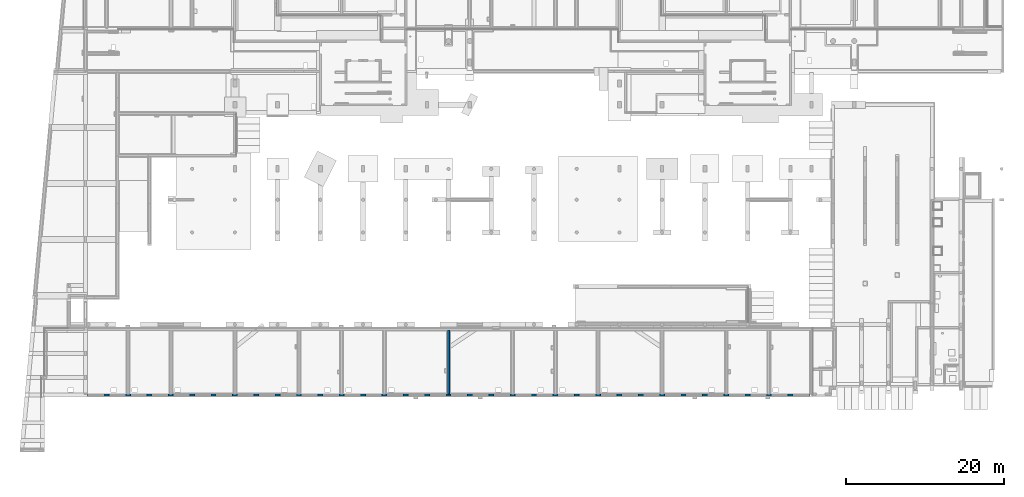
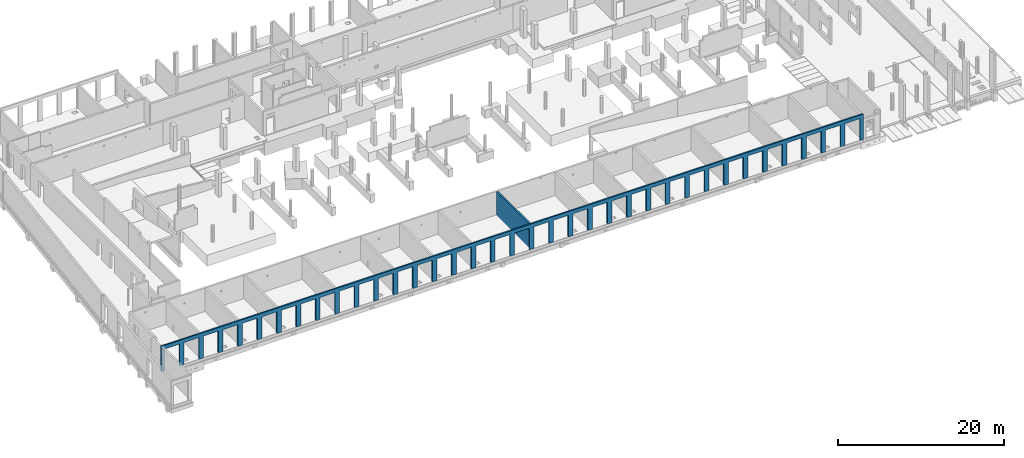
# One storey, part 39 of 60: 2 walls, 61 openings.
"""IFC2X3 building model written with IfcOpenShell, lengths in millimetres."""

from ifc_helpers import new_model, entity, si_unit, converted_unit, derived_unit, direction, frame, frame_2d, origin, origin_2d_with_axis, place, context, subcontext, project, spatial, rectangle, extrude, material, layer, layer_set, layer_usage, type_object, element, save


model = new_model("IFC2X3")

# Units and contexts
model_context = context("Model", 3, precision=0.01, world=origin(), true_north=direction((6.12303176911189e-17, 1.0)))
body_context = subcontext(model_context, "Body", "Model", "MODEL_VIEW")
ifc_project = project(units=[si_unit("LENGTHUNIT", "METRE", prefix="MILLI"), si_unit("AREAUNIT", "SQUARE_METRE"), si_unit("VOLUMEUNIT", "CUBIC_METRE"), converted_unit("PLANEANGLEUNIT", "DEGREE", entity("IfcRatioMeasure", 0.0174532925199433), si_unit("PLANEANGLEUNIT", "RADIAN"), dimensions=[0, 0, 0, 0, 0, 0, 0]), si_unit("MASSUNIT", "GRAM", prefix="KILO"), derived_unit("MASSDENSITYUNIT", [(si_unit("MASSUNIT", "GRAM", prefix="KILO"), 1), (si_unit("LENGTHUNIT", "METRE"), -3)]), si_unit("TIMEUNIT", "SECOND"), si_unit("FREQUENCYUNIT", "HERTZ"), si_unit("THERMODYNAMICTEMPERATUREUNIT", "DEGREE_CELSIUS"), derived_unit("THERMALTRANSMITTANCEUNIT", [(si_unit("MASSUNIT", "GRAM", prefix="KILO"), 1), (si_unit("THERMODYNAMICTEMPERATUREUNIT", "KELVIN"), -1), (si_unit("TIMEUNIT", "SECOND"), -3)]), derived_unit("VOLUMETRICFLOWRATEUNIT", [(si_unit("LENGTHUNIT", "METRE"), 3), (si_unit("TIMEUNIT", "SECOND"), -1)]), si_unit("ELECTRICCURRENTUNIT", "AMPERE"), si_unit("ELECTRICVOLTAGEUNIT", "VOLT"), si_unit("POWERUNIT", "WATT"), si_unit("FORCEUNIT", "NEWTON", prefix="KILO"), si_unit("ILLUMINANCEUNIT", "LUX"), si_unit("LUMINOUSFLUXUNIT", "LUMEN"), si_unit("LUMINOUSINTENSITYUNIT", "CANDELA"), derived_unit("USERDEFINED", [(si_unit("MASSUNIT", "GRAM", prefix="KILO"), -1), (si_unit("LENGTHUNIT", "METRE"), -2), (si_unit("TIMEUNIT", "SECOND"), 3), (si_unit("LUMINOUSFLUXUNIT", "LUMEN"), 1)]), derived_unit("LINEARVELOCITYUNIT", [(si_unit("LENGTHUNIT", "METRE"), 1), (si_unit("TIMEUNIT", "SECOND"), -1)]), si_unit("PRESSUREUNIT", "PASCAL"), derived_unit("USERDEFINED", [(si_unit("LENGTHUNIT", "METRE"), -2), (si_unit("MASSUNIT", "GRAM", prefix="KILO"), 1), (si_unit("TIMEUNIT", "SECOND"), -2)])], contexts=[model_context])

# Site, building, storey
site_placement = place(None, origin())
site = spatial("IfcSite", under=ifc_project, at=site_placement, Name="Default", CompositionType="ELEMENT")
building_placement = place(site_placement, origin())
building = spatial("IfcBuilding", under=site, at=building_placement, Name="niet gebruiken", CompositionType="ELEMENT")
storey_placement = place(building_placement, origin())
storey = spatial("IfcBuildingStorey", under=building, at=storey_placement, Name="00 begane grond", CompositionType="ELEMENT", Elevation=0.0)

# Wall
ifc_material_1 = material(Name="NLRS_f2_beton ihwg")
ifc_layer_1 = layer(ifc_material_1, 250.0)
ifc_layer_set_1 = layer_set([ifc_layer_1], Name="Basic Wall:NLRS_22.21_WA_beton ihwg d=250_gen")
ifc_layer_usage_1 = layer_usage(ifc_layer_set_1, "AXIS2", "NEGATIVE", 125.0)
wall_type_1 = type_object("IfcWallType", Name="Basic Wall:NLRS_22.21_WA_beton ihwg d=250_gen", PredefinedType="STANDARD", material=ifc_layer_set_1)
wall_1_placement = place(storey_placement, frame((54000.0, 8496.0, -160.0), z_axis=(0.0, 0.0, 1.0), x_axis=(0.0, -1.0, 0.0)))
element("IfcWallStandardCase", 1, at=wall_1_placement, inside=storey, type_object=wall_type_1, material=ifc_layer_usage_1, Name="Basic Wall:NLRS_22.21_WA_beton ihwg d=250_gen", ObjectType="Basic Wall:NLRS_22.21_WA_beton ihwg d=250_gen", context=body_context, shape_type="SweptSolid", body=[
    extrude(rectangle(XDim=8075.99999999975, YDim=249.999999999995, at=frame_2d((4037.99999999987, 0.0), x_axis=(-1.0, 0.0))), origin(), (0.0, 0.0, 1.0), 3510.00000000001),
])

# Wall, openings
ifc_material_2 = material(Name="NLRS_f2_beton prefab")
ifc_layer_2 = layer(ifc_material_2, 200.0)
ifc_layer_set_2 = layer_set([ifc_layer_2], Name="Basic Wall:NLRS_21.21_WA_beton prefab d=200_gen")
ifc_layer_usage_2 = layer_usage(ifc_layer_set_2, "AXIS2", "NEGATIVE", 100.0)
wall_type_2 = type_object("IfcWallType", Name="Basic Wall:NLRS_21.21_WA_beton prefab d=200_gen", PredefinedType="STANDARD", material=ifc_layer_set_2)
wall_2_placement = place(storey_placement, frame((2550.0, 300.0, -130.0)))
wall_2 = element("IfcWallStandardCase", 2, at=wall_2_placement, inside=storey, type_object=wall_type_2, material=ifc_layer_usage_2, Name="Basic Wall:NLRS_21.21_WA_beton prefab d=200_gen", ObjectType="Basic Wall:NLRS_21.21_WA_beton prefab d=200_gen", context=body_context, shape_type="SweptSolid", body=[
    extrude(rectangle(XDim=97494.9999999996, YDim=200.0, at=frame_2d((48747.4999999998, -7.105427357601e-15), x_axis=(-1.0, 0.0))), origin(), (0.0, 0.0, 1.0), 3730.0),
])
opening_1_placement = place(wall_2_placement, origin())
element("IfcOpeningElement", 3, at=opening_1_placement, cuts=wall_2, Name="Basic Wall:NLRS_21.21_WA_beton prefab d=200_gen", ObjectType="Opening", context=body_context, shape_type="SweptSolid", body=[
    extrude(rectangle(XDim=3230.0, YDim=2080.0, at=frame_2d((0.0, 8.64019966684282e-12), x_axis=(1.0, 0.0))), frame((96000.0, -1424.0, 1585.0), z_axis=(0.0, 1.0, 0.0), x_axis=(0.0, 0.0, 1.0)), (0.0, 0.0, 1.0), 3048.0),
])
opening_2_placement = place(wall_2_placement, origin())
element("IfcOpeningElement", 4, at=opening_2_placement, cuts=wall_2, Name="Basic Wall:NLRS_21.21_WA_beton prefab d=200_gen", ObjectType="Opening", context=body_context, shape_type="SweptSolid", body=[
    extrude(rectangle(XDim=3230.0, YDim=2080.0, at=frame_2d((0.0, -8.64019966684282e-12), x_axis=(1.0, 0.0))), frame((93300.0, -1424.0, 1585.0), z_axis=(0.0, 1.0, 0.0), x_axis=(0.0, 0.0, 1.0)), (0.0, 0.0, 1.0), 3048.0),
])
opening_3_placement = place(wall_2_placement, origin())
element("IfcOpeningElement", 5, at=opening_3_placement, cuts=wall_2, Name="Basic Wall:NLRS_21.21_WA_beton prefab d=200_gen", ObjectType="Opening", context=body_context, shape_type="SweptSolid", body=[
    extrude(rectangle(XDim=3230.0, YDim=2080.0, at=frame_2d((0.0, -8.64019966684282e-12), x_axis=(1.0, 0.0))), frame((90600.0, -1424.0, 1585.0), z_axis=(0.0, 1.0, 0.0), x_axis=(0.0, 0.0, 1.0)), (0.0, 0.0, 1.0), 3048.0),
])
opening_4_placement = place(wall_2_placement, origin())
element("IfcOpeningElement", 6, at=opening_4_placement, cuts=wall_2, Name="Basic Wall:NLRS_21.21_WA_beton prefab d=200_gen", ObjectType="Opening", context=body_context, shape_type="SweptSolid", body=[
    extrude(rectangle(XDim=3230.0, YDim=2080.0, at=frame_2d((0.0, 8.64019966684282e-12), x_axis=(1.0, 0.0))), frame((87900.0, -1424.0, 1585.0), z_axis=(0.0, 1.0, 0.0), x_axis=(0.0, 0.0, 1.0)), (0.0, 0.0, 1.0), 3048.0),
])
opening_5_placement = place(wall_2_placement, origin())
element("IfcOpeningElement", 7, at=opening_5_placement, cuts=wall_2, Name="Basic Wall:NLRS_21.21_WA_beton prefab d=200_gen", ObjectType="Opening", context=body_context, shape_type="SweptSolid", body=[
    extrude(rectangle(XDim=3230.0, YDim=2080.0, at=frame_2d((0.0, 8.64019966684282e-12), x_axis=(1.0, 0.0))), frame((85200.0, -1424.0, 1585.0), z_axis=(0.0, 1.0, 0.0), x_axis=(0.0, 0.0, 1.0)), (0.0, 0.0, 1.0), 3048.0),
])
opening_6_placement = place(wall_2_placement, origin())
element("IfcOpeningElement", 8, at=opening_6_placement, cuts=wall_2, Name="Basic Wall:NLRS_21.21_WA_beton prefab d=200_gen", ObjectType="Opening", context=body_context, shape_type="SweptSolid", body=[
    extrude(rectangle(XDim=3230.0, YDim=2080.0, at=frame_2d((0.0, 8.64019966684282e-12), x_axis=(1.0, 0.0))), frame((82500.0, -1424.0, 1585.0), z_axis=(0.0, 1.0, 0.0), x_axis=(0.0, 0.0, 1.0)), (0.0, 0.0, 1.0), 3048.0),
])
opening_7_placement = place(wall_2_placement, origin())
element("IfcOpeningElement", 9, at=opening_7_placement, cuts=wall_2, Name="Basic Wall:NLRS_21.21_WA_beton prefab d=200_gen", ObjectType="Opening", context=body_context, shape_type="SweptSolid", body=[
    extrude(rectangle(XDim=3230.0, YDim=2080.0, at=frame_2d((0.0, 8.64019966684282e-12), x_axis=(1.0, 0.0))), frame((79800.0, -1424.0, 1585.0), z_axis=(0.0, 1.0, 0.0), x_axis=(0.0, 0.0, 1.0)), (0.0, 0.0, 1.0), 3048.0),
])
opening_8_placement = place(wall_2_placement, origin())
element("IfcOpeningElement", 10, at=opening_8_placement, cuts=wall_2, Name="Basic Wall:NLRS_21.21_WA_beton prefab d=200_gen", ObjectType="Opening", context=body_context, shape_type="SweptSolid", body=[
    extrude(rectangle(XDim=3230.0, YDim=2080.0, at=frame_2d((0.0, 8.64019966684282e-12), x_axis=(1.0, 0.0))), frame((77100.0, -1424.0, 1585.0), z_axis=(0.0, 1.0, 0.0), x_axis=(0.0, 0.0, 1.0)), (0.0, 0.0, 1.0), 3048.0),
])
opening_9_placement = place(wall_2_placement, origin())
element("IfcOpeningElement", 11, at=opening_9_placement, cuts=wall_2, Name="Basic Wall:NLRS_21.21_WA_beton prefab d=200_gen", ObjectType="Opening", context=body_context, shape_type="SweptSolid", body=[
    extrude(rectangle(XDim=3230.0, YDim=2080.0, at=frame_2d((0.0, 4.32009983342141e-12), x_axis=(1.0, 0.0))), frame((74400.0, -1424.0, 1585.0), z_axis=(0.0, 1.0, 0.0), x_axis=(0.0, 0.0, 1.0)), (0.0, 0.0, 1.0), 3048.0),
])
opening_10_placement = place(wall_2_placement, origin())
element("IfcOpeningElement", 12, at=opening_10_placement, cuts=wall_2, Name="Basic Wall:NLRS_21.21_WA_beton prefab d=200_gen", ObjectType="Opening", context=body_context, shape_type="SweptSolid", body=[
    extrude(rectangle(XDim=3230.0, YDim=2080.0, at=frame_2d((0.0, 4.32009983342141e-12), x_axis=(1.0, 0.0))), frame((71700.0, -1424.0, 1585.0), z_axis=(0.0, 1.0, 0.0), x_axis=(0.0, 0.0, 1.0)), (0.0, 0.0, 1.0), 3048.0),
])
opening_11_placement = place(wall_2_placement, origin())
element("IfcOpeningElement", 13, at=opening_11_placement, cuts=wall_2, Name="Basic Wall:NLRS_21.21_WA_beton prefab d=200_gen", ObjectType="Opening", context=body_context, shape_type="SweptSolid", body=[
    extrude(rectangle(XDim=3230.0, YDim=2080.0, at=frame_2d((0.0, 4.32009983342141e-12), x_axis=(1.0, 0.0))), frame((66300.0, -1424.0, 1585.0), z_axis=(0.0, 1.0, 0.0), x_axis=(0.0, 0.0, 1.0)), (0.0, 0.0, 1.0), 3048.0),
])
opening_12_placement = place(wall_2_placement, origin())
element("IfcOpeningElement", 14, at=opening_12_placement, cuts=wall_2, Name="Basic Wall:NLRS_21.21_WA_beton prefab d=200_gen", ObjectType="Opening", context=body_context, shape_type="SweptSolid", body=[
    extrude(rectangle(XDim=3230.0, YDim=2080.0, at=frame_2d((0.0, 4.32009983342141e-12), x_axis=(1.0, 0.0))), frame((63600.0, -1424.0, 1585.0), z_axis=(0.0, 1.0, 0.0), x_axis=(0.0, 0.0, 1.0)), (0.0, 0.0, 1.0), 3048.0),
])
opening_13_placement = place(wall_2_placement, origin())
element("IfcOpeningElement", 15, at=opening_13_placement, cuts=wall_2, Name="Basic Wall:NLRS_21.21_WA_beton prefab d=200_gen", ObjectType="Opening", context=body_context, shape_type="SweptSolid", body=[
    extrude(rectangle(XDim=3230.0, YDim=2080.0, at=frame_2d((0.0, -4.32009983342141e-12), x_axis=(1.0, 0.0))), frame((60900.0, -1424.0, 1585.0), z_axis=(0.0, 1.0, 0.0), x_axis=(0.0, 0.0, 1.0)), (0.0, 0.0, 1.0), 3048.0),
])
opening_14_placement = place(wall_2_placement, origin())
element("IfcOpeningElement", 16, at=opening_14_placement, cuts=wall_2, Name="Basic Wall:NLRS_21.21_WA_beton prefab d=200_gen", ObjectType="Opening", context=body_context, shape_type="SweptSolid", body=[
    extrude(rectangle(XDim=3230.0, YDim=2080.0, at=frame_2d((0.0, 4.32009983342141e-12), x_axis=(1.0, 0.0))), frame((55500.0, -1424.0, 1585.0), z_axis=(0.0, 1.0, 0.0), x_axis=(0.0, 0.0, 1.0)), (0.0, 0.0, 1.0), 3048.0),
])
opening_15_placement = place(wall_2_placement, origin())
element("IfcOpeningElement", 17, at=opening_15_placement, cuts=wall_2, Name="Basic Wall:NLRS_21.21_WA_beton prefab d=200_gen", ObjectType="Opening", context=body_context, shape_type="SweptSolid", body=[
    extrude(rectangle(XDim=3230.0, YDim=2080.0, at=frame_2d((0.0, 4.32009983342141e-12), x_axis=(1.0, 0.0))), frame((52800.0, -1424.0, 1585.0), z_axis=(0.0, 1.0, 0.0), x_axis=(0.0, 0.0, 1.0)), (0.0, 0.0, 1.0), 3048.0),
])
opening_16_placement = place(wall_2_placement, origin())
element("IfcOpeningElement", 18, at=opening_16_placement, cuts=wall_2, Name="Basic Wall:NLRS_21.21_WA_beton prefab d=200_gen", ObjectType="Opening", context=body_context, shape_type="SweptSolid", body=[
    extrude(rectangle(XDim=3230.0, YDim=2080.0, at=frame_2d((0.0, -4.32009983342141e-12), x_axis=(1.0, 0.0))), frame((50100.0, -1424.0, 1585.0), z_axis=(0.0, 1.0, 0.0), x_axis=(0.0, 0.0, 1.0)), (0.0, 0.0, 1.0), 3048.0),
])
opening_17_placement = place(wall_2_placement, origin())
element("IfcOpeningElement", 19, at=opening_17_placement, cuts=wall_2, Name="Basic Wall:NLRS_21.21_WA_beton prefab d=200_gen", ObjectType="Opening", context=body_context, shape_type="SweptSolid", body=[
    extrude(rectangle(XDim=3230.0, YDim=2080.0, at=frame_2d((0.0, 4.32009983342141e-12), x_axis=(1.0, 0.0))), frame((47400.0, -1424.0, 1585.0), z_axis=(0.0, 1.0, 0.0), x_axis=(0.0, 0.0, 1.0)), (0.0, 0.0, 1.0), 3048.0),
])
opening_18_placement = place(wall_2_placement, origin())
element("IfcOpeningElement", 20, at=opening_18_placement, cuts=wall_2, Name="Basic Wall:NLRS_21.21_WA_beton prefab d=200_gen", ObjectType="Opening", context=body_context, shape_type="SweptSolid", body=[
    extrude(rectangle(XDim=3230.0, YDim=2080.0, at=frame_2d((0.0, 4.32009983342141e-12), x_axis=(1.0, 0.0))), frame((44700.0, -1424.0, 1585.0), z_axis=(0.0, 1.0, 0.0), x_axis=(0.0, 0.0, 1.0)), (0.0, 0.0, 1.0), 3048.0),
])
opening_19_placement = place(wall_2_placement, origin())
element("IfcOpeningElement", 21, at=opening_19_placement, cuts=wall_2, Name="Basic Wall:NLRS_21.21_WA_beton prefab d=200_gen", ObjectType="Opening", context=body_context, shape_type="SweptSolid", body=[
    extrude(rectangle(XDim=3230.0, YDim=2080.0, at=frame_2d((0.0, 4.32009983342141e-12), x_axis=(1.0, 0.0))), frame((42000.0, -1424.0, 1585.0), z_axis=(0.0, 1.0, 0.0), x_axis=(0.0, 0.0, 1.0)), (0.0, 0.0, 1.0), 3048.0),
])
opening_20_placement = place(wall_2_placement, origin())
element("IfcOpeningElement", 22, at=opening_20_placement, cuts=wall_2, Name="Basic Wall:NLRS_21.21_WA_beton prefab d=200_gen", ObjectType="Opening", context=body_context, shape_type="SweptSolid", body=[
    extrude(rectangle(XDim=3230.0, YDim=2080.0, at=frame_2d((0.0, -4.32009983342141e-12), x_axis=(1.0, 0.0))), frame((39300.0, -1424.0, 1585.0), z_axis=(0.0, 1.0, 0.0), x_axis=(0.0, 0.0, 1.0)), (0.0, 0.0, 1.0), 3048.0),
])
opening_21_placement = place(wall_2_placement, origin())
element("IfcOpeningElement", 23, at=opening_21_placement, cuts=wall_2, Name="Basic Wall:NLRS_21.21_WA_beton prefab d=200_gen", ObjectType="Opening", context=body_context, shape_type="SweptSolid", body=[
    extrude(rectangle(XDim=3230.0, YDim=2080.0, at=frame_2d((0.0, -2.1600499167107e-12), x_axis=(1.0, 0.0))), frame((36600.0, -1424.0, 1585.0), z_axis=(0.0, 1.0, 0.0), x_axis=(0.0, 0.0, 1.0)), (0.0, 0.0, 1.0), 3048.0),
])
opening_22_placement = place(wall_2_placement, origin())
element("IfcOpeningElement", 24, at=opening_22_placement, cuts=wall_2, Name="Basic Wall:NLRS_21.21_WA_beton prefab d=200_gen", ObjectType="Opening", context=body_context, shape_type="SweptSolid", body=[
    extrude(rectangle(XDim=3230.0, YDim=2080.0, at=frame_2d((0.0, 2.1600499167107e-12), x_axis=(1.0, 0.0))), frame((33900.0, -1424.0, 1585.0), z_axis=(0.0, 1.0, 0.0), x_axis=(0.0, 0.0, 1.0)), (0.0, 0.0, 1.0), 3048.0),
])
opening_23_placement = place(wall_2_placement, origin())
element("IfcOpeningElement", 25, at=opening_23_placement, cuts=wall_2, Name="Basic Wall:NLRS_21.21_WA_beton prefab d=200_gen", ObjectType="Opening", context=body_context, shape_type="SweptSolid", body=[
    extrude(rectangle(XDim=3230.0, YDim=2080.0, at=frame_2d((0.0, -2.1600499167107e-12), x_axis=(1.0, 0.0))), frame((31200.0, -1424.0, 1585.0), z_axis=(0.0, 1.0, 0.0), x_axis=(0.0, 0.0, 1.0)), (0.0, 0.0, 1.0), 3048.0),
])
opening_24_placement = place(wall_2_placement, origin())
element("IfcOpeningElement", 26, at=opening_24_placement, cuts=wall_2, Name="Basic Wall:NLRS_21.21_WA_beton prefab d=200_gen", ObjectType="Opening", context=body_context, shape_type="SweptSolid", body=[
    extrude(rectangle(XDim=3230.0, YDim=2080.0, at=frame_2d((0.0, -2.1600499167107e-12), x_axis=(1.0, 0.0))), frame((28500.0, -1424.0, 1585.0), z_axis=(0.0, 1.0, 0.0), x_axis=(0.0, 0.0, 1.0)), (0.0, 0.0, 1.0), 3048.0),
])
opening_25_placement = place(wall_2_placement, origin())
element("IfcOpeningElement", 27, at=opening_25_placement, cuts=wall_2, Name="Basic Wall:NLRS_21.21_WA_beton prefab d=200_gen", ObjectType="Opening", context=body_context, shape_type="SweptSolid", body=[
    extrude(rectangle(XDim=3230.0, YDim=2080.0, at=frame_2d((0.0, -2.1600499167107e-12), x_axis=(1.0, 0.0))), frame((25800.0, -1424.0, 1585.0), z_axis=(0.0, 1.0, 0.0), x_axis=(0.0, 0.0, 1.0)), (0.0, 0.0, 1.0), 3048.0),
])
opening_26_placement = place(wall_2_placement, origin())
element("IfcOpeningElement", 28, at=opening_26_placement, cuts=wall_2, Name="Basic Wall:NLRS_21.21_WA_beton prefab d=200_gen", ObjectType="Opening", context=body_context, shape_type="SweptSolid", body=[
    extrude(rectangle(XDim=3230.0, YDim=2080.0, at=frame_2d((0.0, -2.1600499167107e-12), x_axis=(1.0, 0.0))), frame((23100.0, -1424.0, 1585.0), z_axis=(0.0, 1.0, 0.0), x_axis=(0.0, 0.0, 1.0)), (0.0, 0.0, 1.0), 3048.0),
])
opening_27_placement = place(wall_2_placement, origin())
element("IfcOpeningElement", 29, at=opening_27_placement, cuts=wall_2, Name="Basic Wall:NLRS_21.21_WA_beton prefab d=200_gen", ObjectType="Opening", context=body_context, shape_type="SweptSolid", body=[
    extrude(rectangle(XDim=3230.0, YDim=2080.0, at=frame_2d((0.0, -2.1600499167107e-12), x_axis=(1.0, 0.0))), frame((20400.0, -1424.0, 1585.0), z_axis=(0.0, 1.0, 0.0), x_axis=(0.0, 0.0, 1.0)), (0.0, 0.0, 1.0), 3048.0),
])
opening_28_placement = place(wall_2_placement, origin())
element("IfcOpeningElement", 30, at=opening_28_placement, cuts=wall_2, Name="Basic Wall:NLRS_21.21_WA_beton prefab d=200_gen", ObjectType="Opening", context=body_context, shape_type="SweptSolid", body=[
    extrude(rectangle(XDim=3230.0, YDim=2080.0, at=frame_2d((0.0, -2.1600499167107e-12), x_axis=(1.0, 0.0))), frame((17700.0, -1424.0, 1585.0), z_axis=(0.0, 1.0, 0.0), x_axis=(0.0, 0.0, 1.0)), (0.0, 0.0, 1.0), 3048.0),
])
opening_29_placement = place(wall_2_placement, origin())
element("IfcOpeningElement", 31, at=opening_29_placement, cuts=wall_2, Name="Basic Wall:NLRS_21.21_WA_beton prefab d=200_gen", ObjectType="Opening", context=body_context, shape_type="SweptSolid", body=[
    extrude(rectangle(XDim=3230.0, YDim=2080.0, at=origin_2d_with_axis()), frame((15000.0, -1424.0, 1585.0), z_axis=(0.0, 1.0, 0.0), x_axis=(0.0, 0.0, 1.0)), (0.0, 0.0, 1.0), 3048.0),
])
opening_30_placement = place(wall_2_placement, origin())
element("IfcOpeningElement", 32, at=opening_30_placement, cuts=wall_2, Name="Basic Wall:NLRS_21.21_WA_beton prefab d=200_gen", ObjectType="Opening", context=body_context, shape_type="SweptSolid", body=[
    extrude(rectangle(XDim=3230.0, YDim=2080.0, at=origin_2d_with_axis()), frame((12300.0, -1424.0, 1585.0), z_axis=(0.0, 1.0, 0.0), x_axis=(0.0, 0.0, 1.0)), (0.0, 0.0, 1.0), 3048.0),
])
opening_31_placement = place(wall_2_placement, origin())
element("IfcOpeningElement", 33, at=opening_31_placement, cuts=wall_2, Name="Basic Wall:NLRS_21.21_WA_beton prefab d=200_gen", ObjectType="Opening", context=body_context, shape_type="SweptSolid", body=[
    extrude(rectangle(XDim=3230.0, YDim=2080.0, at=origin_2d_with_axis()), frame((9600.0, -1424.0, 1585.0), z_axis=(0.0, 1.0, 0.0), x_axis=(0.0, 0.0, 1.0)), (0.0, 0.0, 1.0), 3048.0),
])
opening_32_placement = place(wall_2_placement, origin())
element("IfcOpeningElement", 34, at=opening_32_placement, cuts=wall_2, Name="Basic Wall:NLRS_21.21_WA_beton prefab d=200_gen", ObjectType="Opening", context=body_context, shape_type="SweptSolid", body=[
    extrude(rectangle(XDim=3230.0, YDim=2080.0, at=origin_2d_with_axis()), frame((6900.0, -1424.0, 1585.0), z_axis=(0.0, 1.0, 0.0), x_axis=(0.0, 0.0, 1.0)), (0.0, 0.0, 1.0), 3048.0),
])
opening_33_placement = place(wall_2_placement, origin())
element("IfcOpeningElement", 35, at=opening_33_placement, cuts=wall_2, Name="Basic Wall:NLRS_21.21_WA_beton prefab d=200_gen", ObjectType="Opening", context=body_context, shape_type="SweptSolid", body=[
    extrude(rectangle(XDim=3230.0, YDim=2080.0, at=origin_2d_with_axis()), frame((4200.0, -1424.0, 1585.0), z_axis=(0.0, 1.0, 0.0), x_axis=(0.0, 0.0, 1.0)), (0.0, 0.0, 1.0), 3048.0),
])
opening_34_placement = place(wall_2_placement, origin())
element("IfcOpeningElement", 36, at=opening_34_placement, cuts=wall_2, Name="Basic Wall:NLRS_21.21_WA_beton prefab d=200_gen", ObjectType="Opening", context=body_context, shape_type="SweptSolid", body=[
    extrude(rectangle(XDim=3230.0, YDim=2080.0, at=frame_2d((0.0, 3.41060513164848e-13), x_axis=(1.0, 0.0))), frame((1500.0, -1424.0, 1585.0), z_axis=(0.0, 1.0, 0.0), x_axis=(0.0, 0.0, 1.0)), (0.0, 0.0, 1.0), 3048.0),
])
opening_35_placement = place(wall_2_placement, origin())
element("IfcOpeningElement", 37, at=opening_35_placement, cuts=wall_2, Name="Basic Wall:NLRS_21.21_WA_beton prefab d=200_gen", ObjectType="Opening", context=body_context, shape_type="SweptSolid", body=[
    extrude(rectangle(XDim=3230.0, YDim=2080.0, at=frame_2d((0.0, -4.32009983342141e-12), x_axis=(1.0, 0.0))), frame((58200.0, -1424.0, 1585.0), z_axis=(0.0, 1.0, 0.0), x_axis=(0.0, 0.0, 1.0)), (0.0, 0.0, 1.0), 3048.0),
])
opening_36_placement = place(wall_2_placement, origin())
element("IfcOpeningElement", 38, at=opening_36_placement, cuts=wall_2, Name="Basic Wall:NLRS_21.21_WA_beton prefab d=200_gen", ObjectType="Opening", context=body_context, shape_type="SweptSolid", body=[
    extrude(rectangle(XDim=3230.0, YDim=2080.0, at=frame_2d((0.0, -4.32009983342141e-12), x_axis=(1.0, 0.0))), frame((69000.0, -1424.0, 1585.0), z_axis=(0.0, 1.0, 0.0), x_axis=(0.0, 0.0, 1.0)), (0.0, 0.0, 1.0), 3048.0),
])
opening_37_placement = place(wall_2_placement, origin())
element("IfcOpeningElement", 39, at=opening_37_placement, cuts=wall_2, Name="Basic Wall:NLRS_21.21_WA_beton prefab d=200_gen", ObjectType="Opening", context=body_context, shape_type="SweptSolid", body=[
    extrude(rectangle(XDim=2440.0, YDim=2080.0, at=frame_2d((2.1600499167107e-12, 0.0), x_axis=(0.0, 1.0))), frame((28500.0, -1424.0, 4950.0), z_axis=(0.0, 1.0, 0.0), x_axis=(-1.0, 0.0, 0.0)), (0.0, 0.0, 1.0), 3048.0),
])
opening_38_placement = place(wall_2_placement, origin())
element("IfcOpeningElement", 40, at=opening_38_placement, cuts=wall_2, Name="Basic Wall:NLRS_21.21_WA_beton prefab d=200_gen", ObjectType="Opening", context=body_context, shape_type="SweptSolid", body=[
    extrude(rectangle(XDim=2440.0, YDim=2080.0, at=frame_2d((2.1600499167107e-12, 0.0), x_axis=(0.0, 1.0))), frame((31200.0, -1424.0, 4950.0), z_axis=(0.0, 1.0, 0.0), x_axis=(-1.0, 0.0, 0.0)), (0.0, 0.0, 1.0), 3048.0),
])
opening_39_placement = place(wall_2_placement, origin())
element("IfcOpeningElement", 41, at=opening_39_placement, cuts=wall_2, Name="Basic Wall:NLRS_21.21_WA_beton prefab d=200_gen", ObjectType="Opening", context=body_context, shape_type="SweptSolid", body=[
    extrude(rectangle(XDim=2440.0, YDim=2080.0, at=frame_2d((2.1600499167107e-12, 0.0), x_axis=(0.0, 1.0))), frame((33900.0, -1424.0, 4950.0), z_axis=(0.0, 1.0, 0.0), x_axis=(-1.0, 0.0, 0.0)), (0.0, 0.0, 1.0), 3048.0),
])
opening_40_placement = place(wall_2_placement, origin())
element("IfcOpeningElement", 42, at=opening_40_placement, cuts=wall_2, Name="Basic Wall:NLRS_21.21_WA_beton prefab d=200_gen", ObjectType="Opening", context=body_context, shape_type="SweptSolid", body=[
    extrude(rectangle(XDim=2440.0, YDim=2079.99999999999, at=frame_2d((-2.1600499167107e-12, 0.0), x_axis=(0.0, 1.0))), frame((36600.0, -1424.0, 4950.0), z_axis=(0.0, 1.0, 0.0), x_axis=(-1.0, 0.0, 0.0)), (0.0, 0.0, 1.0), 3048.0),
])
opening_41_placement = place(wall_2_placement, origin())
element("IfcOpeningElement", 43, at=opening_41_placement, cuts=wall_2, Name="Basic Wall:NLRS_21.21_WA_beton prefab d=200_gen", ObjectType="Opening", context=body_context, shape_type="SweptSolid", body=[
    extrude(rectangle(XDim=2440.0, YDim=2080.0, at=frame_2d((0.0, 0.0), x_axis=(0.0, 1.0))), frame((39300.0, -1424.0, 4950.0), z_axis=(0.0, 1.0, 0.0), x_axis=(-1.0, 0.0, 0.0)), (0.0, 0.0, 1.0), 3048.0),
])
opening_42_placement = place(wall_2_placement, origin())
element("IfcOpeningElement", 44, at=opening_42_placement, cuts=wall_2, Name="Basic Wall:NLRS_21.21_WA_beton prefab d=200_gen", ObjectType="Opening", context=body_context, shape_type="SweptSolid", body=[
    extrude(rectangle(XDim=2440.0, YDim=2080.0, at=frame_2d((0.0, 0.0), x_axis=(0.0, 1.0))), frame((42000.0, -1424.0, 4950.0), z_axis=(0.0, 1.0, 0.0), x_axis=(-1.0, 0.0, 0.0)), (0.0, 0.0, 1.0), 3048.0),
])
opening_43_placement = place(wall_2_placement, origin())
element("IfcOpeningElement", 45, at=opening_43_placement, cuts=wall_2, Name="Basic Wall:NLRS_21.21_WA_beton prefab d=200_gen", ObjectType="Opening", context=body_context, shape_type="SweptSolid", body=[
    extrude(rectangle(XDim=2440.0, YDim=2080.0, at=frame_2d((0.0, 0.0), x_axis=(0.0, 1.0))), frame((44700.0, -1424.0, 4950.0), z_axis=(0.0, 1.0, 0.0), x_axis=(-1.0, 0.0, 0.0)), (0.0, 0.0, 1.0), 3048.0),
])
opening_44_placement = place(wall_2_placement, origin())
element("IfcOpeningElement", 46, at=opening_44_placement, cuts=wall_2, Name="Basic Wall:NLRS_21.21_WA_beton prefab d=200_gen", ObjectType="Opening", context=body_context, shape_type="SweptSolid", body=[
    extrude(rectangle(XDim=2440.0, YDim=2080.0, at=frame_2d((0.0, 0.0), x_axis=(0.0, 1.0))), frame((47400.0, -1424.0, 4950.0), z_axis=(0.0, 1.0, 0.0), x_axis=(-1.0, 0.0, 0.0)), (0.0, 0.0, 1.0), 3048.0),
])
opening_45_placement = place(wall_2_placement, origin())
element("IfcOpeningElement", 47, at=opening_45_placement, cuts=wall_2, Name="Basic Wall:NLRS_21.21_WA_beton prefab d=200_gen", ObjectType="Opening", context=body_context, shape_type="SweptSolid", body=[
    extrude(rectangle(XDim=2440.0, YDim=2080.0, at=frame_2d((8.64019966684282e-12, 0.0), x_axis=(0.0, 1.0))), frame((50100.0, -1424.0, 4950.0), z_axis=(0.0, 1.0, 0.0), x_axis=(-1.0, 0.0, 0.0)), (0.0, 0.0, 1.0), 3048.0),
])
opening_46_placement = place(wall_2_placement, origin())
element("IfcOpeningElement", 48, at=opening_46_placement, cuts=wall_2, Name="Basic Wall:NLRS_21.21_WA_beton prefab d=200_gen", ObjectType="Opening", context=body_context, shape_type="SweptSolid", body=[
    extrude(rectangle(XDim=2440.0, YDim=2080.0, at=frame_2d((0.0, 0.0), x_axis=(0.0, 1.0))), frame((52800.0, -1424.0, 4950.0), z_axis=(0.0, 1.0, 0.0), x_axis=(-1.0, 0.0, 0.0)), (0.0, 0.0, 1.0), 3048.0),
])
opening_47_placement = place(wall_2_placement, origin())
element("IfcOpeningElement", 49, at=opening_47_placement, cuts=wall_2, Name="Basic Wall:NLRS_21.21_WA_beton prefab d=200_gen", ObjectType="Opening", context=body_context, shape_type="SweptSolid", body=[
    extrude(rectangle(XDim=2440.0, YDim=2080.0, at=frame_2d((0.0, 0.0), x_axis=(0.0, 1.0))), frame((55500.0, -1424.0, 4950.0), z_axis=(0.0, 1.0, 0.0), x_axis=(-1.0, 0.0, 0.0)), (0.0, 0.0, 1.0), 3048.0),
])
opening_48_placement = place(wall_2_placement, origin())
element("IfcOpeningElement", 50, at=opening_48_placement, cuts=wall_2, Name="Basic Wall:NLRS_21.21_WA_beton prefab d=200_gen", ObjectType="Opening", context=body_context, shape_type="SweptSolid", body=[
    extrude(rectangle(XDim=2440.0, YDim=2080.0, at=frame_2d((0.0, 0.0), x_axis=(0.0, 1.0))), frame((58200.0, -1424.0, 4950.0), z_axis=(0.0, 1.0, 0.0), x_axis=(-1.0, 0.0, 0.0)), (0.0, 0.0, 1.0), 3048.0),
])
opening_49_placement = place(wall_2_placement, origin())
element("IfcOpeningElement", 51, at=opening_49_placement, cuts=wall_2, Name="Basic Wall:NLRS_21.21_WA_beton prefab d=200_gen", ObjectType="Opening", context=body_context, shape_type="SweptSolid", body=[
    extrude(rectangle(XDim=2440.0, YDim=2080.0, at=frame_2d((-8.64019966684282e-12, 0.0), x_axis=(0.0, 1.0))), frame((60900.0, -1424.0, 4950.0), z_axis=(0.0, 1.0, 0.0), x_axis=(-1.0, 0.0, 0.0)), (0.0, 0.0, 1.0), 3048.0),
])
opening_50_placement = place(wall_2_placement, origin())
element("IfcOpeningElement", 52, at=opening_50_placement, cuts=wall_2, Name="Basic Wall:NLRS_21.21_WA_beton prefab d=200_gen", ObjectType="Opening", context=body_context, shape_type="SweptSolid", body=[
    extrude(rectangle(XDim=2440.0, YDim=2080.0, at=frame_2d((0.0, 0.0), x_axis=(0.0, 1.0))), frame((63600.0, -1424.0, 4950.0), z_axis=(0.0, 1.0, 0.0), x_axis=(-1.0, 0.0, 0.0)), (0.0, 0.0, 1.0), 3048.0),
])
opening_51_placement = place(wall_2_placement, origin())
element("IfcOpeningElement", 53, at=opening_51_placement, cuts=wall_2, Name="Basic Wall:NLRS_21.21_WA_beton prefab d=200_gen", ObjectType="Opening", context=body_context, shape_type="SweptSolid", body=[
    extrude(rectangle(XDim=2440.0, YDim=2080.0, at=frame_2d((0.0, 0.0), x_axis=(0.0, 1.0))), frame((66300.0, -1424.0, 4950.0), z_axis=(0.0, 1.0, 0.0), x_axis=(-1.0, 0.0, 0.0)), (0.0, 0.0, 1.0), 3048.0),
])
opening_52_placement = place(wall_2_placement, origin())
element("IfcOpeningElement", 54, at=opening_52_placement, cuts=wall_2, Name="Basic Wall:NLRS_21.21_WA_beton prefab d=200_gen", ObjectType="Opening", context=body_context, shape_type="SweptSolid", body=[
    extrude(rectangle(XDim=2440.0, YDim=2080.0, at=frame_2d((8.64019966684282e-12, 0.0), x_axis=(0.0, 1.0))), frame((69000.0, -1424.0, 4950.0), z_axis=(0.0, 1.0, 0.0), x_axis=(-1.0, 0.0, 0.0)), (0.0, 0.0, 1.0), 3048.0),
])
opening_53_placement = place(wall_2_placement, origin())
element("IfcOpeningElement", 55, at=opening_53_placement, cuts=wall_2, Name="Basic Wall:NLRS_21.21_WA_beton prefab d=200_gen", ObjectType="Opening", context=body_context, shape_type="SweptSolid", body=[
    extrude(rectangle(XDim=2440.0, YDim=2080.0, at=frame_2d((0.0, 0.0), x_axis=(0.0, 1.0))), frame((71700.0, -1424.0, 4950.0), z_axis=(0.0, 1.0, 0.0), x_axis=(-1.0, 0.0, 0.0)), (0.0, 0.0, 1.0), 3048.0),
])
opening_54_placement = place(wall_2_placement, origin())
element("IfcOpeningElement", 56, at=opening_54_placement, cuts=wall_2, Name="Basic Wall:NLRS_21.21_WA_beton prefab d=200_gen", ObjectType="Opening", context=body_context, shape_type="SweptSolid", body=[
    extrude(rectangle(XDim=2440.0, YDim=2080.0, at=frame_2d((0.0, 0.0), x_axis=(0.0, 1.0))), frame((74400.0, -1424.0, 4950.0), z_axis=(0.0, 1.0, 0.0), x_axis=(-1.0, 0.0, 0.0)), (0.0, 0.0, 1.0), 3048.0),
])
opening_55_placement = place(wall_2_placement, origin())
element("IfcOpeningElement", 57, at=opening_55_placement, cuts=wall_2, Name="Basic Wall:NLRS_21.21_WA_beton prefab d=200_gen", ObjectType="Opening", context=body_context, shape_type="SweptSolid", body=[
    extrude(rectangle(XDim=2440.0, YDim=2080.0, at=frame_2d((-8.64019966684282e-12, 0.0), x_axis=(0.0, 1.0))), frame((77100.0, -1424.0, 4950.0), z_axis=(0.0, 1.0, 0.0), x_axis=(-1.0, 0.0, 0.0)), (0.0, 0.0, 1.0), 3048.0),
])
opening_56_placement = place(wall_2_placement, origin())
element("IfcOpeningElement", 58, at=opening_56_placement, cuts=wall_2, Name="Basic Wall:NLRS_21.21_WA_beton prefab d=200_gen", ObjectType="Opening", context=body_context, shape_type="SweptSolid", body=[
    extrude(rectangle(XDim=2440.0, YDim=2080.0, at=frame_2d((-8.64019966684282e-12, 0.0), x_axis=(0.0, 1.0))), frame((79800.0, -1424.0, 4950.0), z_axis=(0.0, 1.0, 0.0), x_axis=(-1.0, 0.0, 0.0)), (0.0, 0.0, 1.0), 3048.0),
])
opening_57_placement = place(wall_2_placement, origin())
element("IfcOpeningElement", 59, at=opening_57_placement, cuts=wall_2, Name="Basic Wall:NLRS_21.21_WA_beton prefab d=200_gen", ObjectType="Opening", context=body_context, shape_type="SweptSolid", body=[
    extrude(rectangle(XDim=2440.0, YDim=2080.0, at=frame_2d((8.64019966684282e-12, 0.0), x_axis=(0.0, 1.0))), frame((82500.0, -1424.0, 4950.0), z_axis=(0.0, 1.0, 0.0), x_axis=(-1.0, 0.0, 0.0)), (0.0, 0.0, 1.0), 3048.0),
])
opening_58_placement = place(wall_2_placement, origin())
element("IfcOpeningElement", 60, at=opening_58_placement, cuts=wall_2, Name="Basic Wall:NLRS_21.21_WA_beton prefab d=200_gen", ObjectType="Opening", context=body_context, shape_type="SweptSolid", body=[
    extrude(rectangle(XDim=2440.0, YDim=2080.0, at=frame_2d((8.64019966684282e-12, 0.0), x_axis=(0.0, 1.0))), frame((85200.0, -1424.0, 4950.0), z_axis=(0.0, 1.0, 0.0), x_axis=(-1.0, 0.0, 0.0)), (0.0, 0.0, 1.0), 3048.0),
])
opening_59_placement = place(wall_2_placement, origin())
element("IfcOpeningElement", 61, at=opening_59_placement, cuts=wall_2, Name="Basic Wall:NLRS_21.21_WA_beton prefab d=200_gen", ObjectType="Opening", context=body_context, shape_type="SweptSolid", body=[
    extrude(rectangle(XDim=2440.0, YDim=2080.0, at=frame_2d((-8.64019966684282e-12, 0.0), x_axis=(0.0, 1.0))), frame((87900.0, -1424.0, 4950.0), z_axis=(0.0, 1.0, 0.0), x_axis=(-1.0, 0.0, 0.0)), (0.0, 0.0, 1.0), 3048.0),
])
opening_60_placement = place(wall_2_placement, origin())
element("IfcOpeningElement", 62, at=opening_60_placement, cuts=wall_2, Name="Basic Wall:NLRS_21.21_WA_beton prefab d=200_gen", ObjectType="Opening", context=body_context, shape_type="SweptSolid", body=[
    extrude(rectangle(XDim=2440.0, YDim=2080.0, at=frame_2d((8.64019966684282e-12, 0.0), x_axis=(0.0, 1.0))), frame((90600.0, -1424.0, 4950.0), z_axis=(0.0, 1.0, 0.0), x_axis=(-1.0, 0.0, 0.0)), (0.0, 0.0, 1.0), 3048.0),
])
opening_61_placement = place(wall_2_placement, origin())
element("IfcOpeningElement", 63, at=opening_61_placement, cuts=wall_2, Name="Basic Wall:NLRS_21.21_WA_beton prefab d=200_gen", ObjectType="Opening", context=body_context, shape_type="SweptSolid", body=[
    extrude(rectangle(XDim=2440.0, YDim=2080.0, at=frame_2d((8.64019966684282e-12, 0.0), x_axis=(0.0, 1.0))), frame((93300.0, -1424.0, 4950.0), z_axis=(0.0, 1.0, 0.0), x_axis=(-1.0, 0.0, 0.0)), (0.0, 0.0, 1.0), 3048.0),
])

save(model, "model.ifc")
